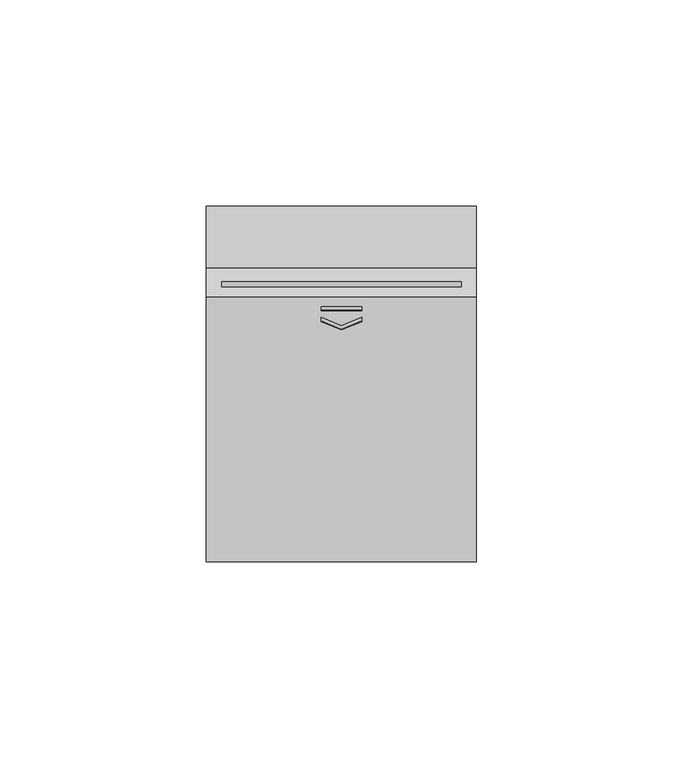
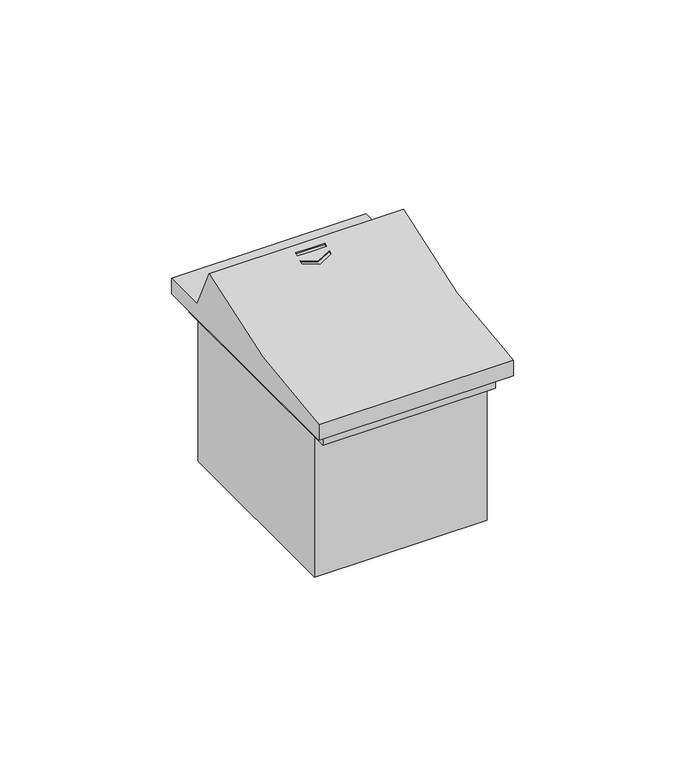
"""IFC4 building model written with IfcOpenShell, lengths in millimetres: proxy geometry, BT_LN-TascaPortabadge : Tasca portabadge - Art. K4549 - 3M - Cover Bianco."""

from ifc_helpers import new_model, si_unit, frame, origin, origin_with_axes, place, context, project, spatial, polyline, circle_curve, ellipse_curve, outline, extrude, source, transform, mapped, element, save
from ifc_brep_helpers import plane_surface, revolved_surface, advanced_brep


def electrical_fixtures_bfd4cbcf(model_context):
    return source(origin(), model_context, "Body", "SolidModel", [
        advanced_brep(
        [(32.7, 43.0, 61.0), (32.7, 28.0, 61.0), (32.7, 21.0, 76.0), (32.7, -43.0, 61.0), (32.7, -43.0, 55.5), (32.7, 43.0, 55.5), (-32.7, 43.0, 61.0), (-32.7, 43.0, 55.5), (-32.7, -43.0, 55.5), (-32.7, -43.0, 61.0), (-32.7, 21.0, 76.0), (-32.7, 28.0, 61.0), (0.0, 18.7566508, 74.9835492), (4.9284943, 18.7566508, 74.9835492), (4.9284943, 17.7407475, 74.5365839), (0.0, 17.7407475, 74.5365839), (-4.9284943, 17.7407475, 74.5365839), (-4.9284943, 18.7566508, 74.9835492), (-4.9284943, 16.10636, 73.8347002), (0.0, 14.153344, 73.0234329), (4.9284943, 16.10636, 73.8347002), (4.9284943, 15.0834157, 73.4060773), (0.0, 13.1252496, 72.6082264), (-4.9284943, 15.0834157, 73.4060773), (29.0, 24.7409841, 67.9836055), (29.0, 23.5401451, 70.556832), (-29.0, 23.5401451, 70.556832), (-29.0, 24.7409841, 67.9836055), (29.0, 3.5694673, 58.1035643), (29.0, 2.3686282, 60.6767908), (-29.0, 2.3686282, 60.6767908), (-29.0, 3.5694673, 58.1035643), (0.0, 19.0114424, 74.3197945), (-4.9284943, 19.0114424, 74.3197945), (-4.9284943, 17.97647, 73.9225058), (0.0, 17.97647, 73.9225058), (4.9284943, 17.97647, 73.9225058), (4.9284943, 19.0114424, 74.3197945), (-4.9284943, 16.317157, 73.2855552), (-4.9284943, 15.2821846, 72.8882666), (0.0, 13.3085679, 72.1306661), (4.9284943, 15.2821846, 72.8882666), (4.9284943, 16.317157, 73.2855552), (0.0, 14.3435402, 72.5279548)],
        [
            (0, 1),
            (1, 2),
            (2, 3, circle_curve(frame((32.7, -47.4831113, 224.1612751), z_axis=(-1.0, 0.0, 0.0), x_axis=(0.0, -1.0, 0.0)), 163.2228537)),
            (3, 4),
            (4, 5),
            (5, 0),
            (6, 7),
            (7, 8),
            (8, 9),
            (9, 10, circle_curve(frame((-32.7, -47.4831113, 224.1612751), z_axis=(1.0, 0.0, 0.0), x_axis=(0.0, -1.0, 0.0)), 163.2228537)),
            (10, 11),
            (11, 6),
            (5, 7),
            (6, 0),
            (4, 8),
            (3, 9),
            (2, 10),
            (12, 13),
            (13, 14, circle_curve(frame((4.9284943, -47.4831113, 224.1612751), z_axis=(-1.0, 0.0, 0.0), x_axis=(0.0, -1.0, 0.0)), 163.2228537)),
            (14, 15),
            (15, 16),
            (16, 17, circle_curve(frame((-4.9284943, -47.4831113, 224.1612751), z_axis=(1.0, 0.0, 0.0), x_axis=(0.0, -1.0, 0.0)), 163.2228537)),
            (17, 12),
            (18, 19, ellipse_curve(frame((7.8790215, -47.4831113, 224.1612751), z_axis=(-0.3942056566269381, -0.8579811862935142, -0.3293481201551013), x_axis=(-0.9190222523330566, 0.3680226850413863, 0.14127067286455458)), 414.0550775, 163.2228537)),
            (19, 20, ellipse_curve(frame((-7.8790215, -47.4831113, 224.1612751), z_axis=(0.3942056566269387, -0.8579811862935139, -0.32934812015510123), x_axis=(-0.9190222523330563, -0.36802268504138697, -0.14127067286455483)), 414.0550775, 163.2228537)),
            (20, 21, circle_curve(frame((4.9284943, -47.4831113, 224.1612751), z_axis=(-1.0, 0.0, 0.0), x_axis=(0.0, -1.0, 0.0)), 163.2228537)),
            (21, 22, ellipse_curve(frame((-5.2944998, -47.4831113, 224.1612751), z_axis=(-0.3942056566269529, 0.8579811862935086, 0.32934812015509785), x_axis=(-0.9190222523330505, -0.36802268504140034, -0.14127067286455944)), 414.0550775, 163.2228537)),
            (22, 23, ellipse_curve(frame((5.2944998, -47.4831113, 224.1612751), z_axis=(0.39420565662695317, 0.8579811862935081, 0.329348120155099), x_axis=(-0.9190222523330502, 0.3680226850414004, 0.14127067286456)), 414.0550775, 163.2228537)),
            (23, 18, circle_curve(frame((-4.9284943, -47.4831113, 224.1612751), z_axis=(1.0, 0.0, 0.0), x_axis=(0.0, -1.0, 0.0)), 163.2228537)),
            (1, 11),
            (24, 25),
            (25, 26),
            (26, 27),
            (27, 24),
            (24, 28),
            (28, 29),
            (29, 25),
            (26, 30),
            (30, 31),
            (31, 27),
            (29, 30),
            (28, 31),
            (32, 33),
            (33, 34),
            (34, 35),
            (35, 36),
            (36, 37),
            (37, 32),
            (38, 39),
            (39, 40),
            (40, 41),
            (41, 42),
            (42, 43),
            (43, 38),
            (37, 13),
            (12, 32),
            (36, 14),
            (35, 15),
            (34, 16),
            (33, 17),
            (43, 19),
            (18, 38),
            (42, 20),
            (41, 21),
            (40, 22),
            (39, 23),
        ],
        [
            plane_surface(frame((32.7, -1442.4208958, 61.0), z_axis=(1.0, 0.0, 0.0), x_axis=(0.0, -1.0, 0.0))),
            plane_surface(frame((-32.7, -1442.4208958, 61.0), z_axis=(-1.0, 0.0, 0.0), x_axis=(0.0, 1.0, 0.0))),
            plane_surface(frame((32.7, 43.0, 55.5), z_axis=(0.0, 1.0, 0.0), x_axis=(-1.0, 0.0, 0.0))),
            plane_surface(frame((32.7, -43.0, 55.5), z_axis=(0.0, 0.0, -1.0), x_axis=(-1.0, 0.0, 0.0))),
            plane_surface(frame((32.7, -43.0, 61.0), z_axis=(0.0, -1.0, 0.0), x_axis=(-1.0, 0.0, 0.0))),
            revolved_surface(polyline([(-388.4048514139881, -210.705965, 224.1612751), (388.4048514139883, -210.705965, 224.1612751)]), (-32.7, -47.4831113, 224.1612751), (-1.0, 0.0, 0.0)),
            plane_surface(frame((32.7, 28.0, 61.0), z_axis=(0.0, 0.9061831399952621, 0.4228854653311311), x_axis=(-1.0, 0.0, 0.0))),
            plane_surface(frame((32.7, 43.0, 61.0), z_axis=(0.0, 0.0, 1.0), x_axis=(-1.0, 0.0, 0.0))),
            plane_surface(frame((29.0, 23.5401451, 70.556832), z_axis=(-1.0, 0.0, 0.0), x_axis=(0.0, -0.9061831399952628, -0.42288546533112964))),
            plane_surface(frame((-29.0, 23.5401451, 70.556832), z_axis=(1.0, 0.0, 0.0), x_axis=(0.0, 0.9061831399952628, 0.42288546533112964))),
            plane_surface(frame((29.0, 23.5401451, 70.556832), z_axis=(0.0, 0.42288546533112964, -0.9061831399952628), x_axis=(-1.0, 0.0, 0.0))),
            plane_surface(frame((29.0, 2.3686282, 60.6767908), z_axis=(0.0, 0.9061831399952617, 0.422885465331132), x_axis=(-1.0, 0.0, 0.0))),
            plane_surface(frame((29.0, 3.5694673, 58.1035643), z_axis=(0.0, -0.42288546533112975, 0.9061831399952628), x_axis=(-1.0, 0.0, 0.0))),
            plane_surface(frame((3.9909943, 19.0114424, 74.3197945), z_axis=(0.0, -0.35836794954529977, 0.933580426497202), x_axis=(1.0, 0.0, 0.0))),
            plane_surface(frame((0.0, 19.0114424, 74.3197945), z_axis=(0.0, -0.9335804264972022, -0.35836794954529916), x_axis=(0.0, -0.35836794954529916, 0.9335804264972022))),
            plane_surface(frame((4.9284943, 19.0114424, 74.3197945), z_axis=(-1.0, 0.0, 0.0), x_axis=(0.0, -0.35836794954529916, 0.9335804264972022))),
            plane_surface(frame((4.9284943, 17.97647, 73.9225058), z_axis=(0.0, 0.9335804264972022, 0.35836794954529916), x_axis=(0.0, -0.35836794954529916, 0.9335804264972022))),
            plane_surface(frame((0.0, 17.97647, 73.9225058), z_axis=(0.0, 0.9335804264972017, 0.3583679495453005), x_axis=(0.0, -0.3583679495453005, 0.9335804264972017))),
            plane_surface(frame((-4.9284943, 17.97647, 73.9225058), z_axis=(1.0, 0.0, 0.0), x_axis=(0.0, -0.35836794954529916, 0.9335804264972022))),
            plane_surface(frame((-4.9284943, 19.0114424, 74.3197945), z_axis=(0.0, -0.9335804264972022, -0.35836794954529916), x_axis=(0.0, -0.35836794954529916, 0.9335804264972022))),
            plane_surface(frame((-4.9284943, 16.317157, 73.2855552), z_axis=(-0.3942056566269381, -0.8579811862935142, -0.3293481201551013), x_axis=(0.0, -0.3583679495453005, 0.9335804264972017))),
            plane_surface(frame((0.0, 14.3435402, 72.5279548), z_axis=(0.3942056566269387, -0.8579811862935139, -0.32934812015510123), x_axis=(0.0, -0.3583679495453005, 0.9335804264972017))),
            plane_surface(frame((4.9284943, 16.317157, 73.2855552), z_axis=(-1.0, 0.0, 0.0), x_axis=(0.0, -0.35836794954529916, 0.9335804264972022))),
            plane_surface(frame((4.9284943, 15.2821846, 72.8882666), z_axis=(-0.3942056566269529, 0.8579811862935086, 0.32934812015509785), x_axis=(0.0, -0.35836794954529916, 0.9335804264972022))),
            plane_surface(frame((0.0, 13.3085679, 72.1306661), z_axis=(0.39420565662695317, 0.8579811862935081, 0.329348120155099), x_axis=(0.0, -0.3583679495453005, 0.9335804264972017))),
            plane_surface(frame((-4.9284943, 15.2821846, 72.8882666), z_axis=(1.0, 0.0, 0.0), x_axis=(0.0, -0.35836794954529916, 0.9335804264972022))),
        ],
        [
            (0, [[1, 2, 3, 4, 5, 6]]),
            (1, [[7, 8, 9, 10, 11, 12]]),
            (2, [[-6, 13, -7, 14]]),
            (3, [[-5, 15, -8, -13]]),
            (4, [[-4, 16, -9, -15]]),
            (5, [[-3, 17, -10, -16], [18, 19, 20, 21, 22, 23], [24, 25, 26, 27, 28, 29]]),
            (6, [[-2, 30, -11, -17], [31, 32, 33, 34]]),
            (7, [[-1, -14, -12, -30]]),
            (8, [[35, 36, 37, -31]]),
            (9, [[38, 39, 40, -33]]),
            (10, [[-37, 41, -38, -32]]),
            (11, [[-36, 42, -39, -41]]),
            (12, [[-35, -34, -40, -42]]),
            (13, [[43, 44, 45, 46, 47, 48]]),
            (13, [[49, 50, 51, 52, 53, 54]]),
            (14, [[-48, 55, -18, 56]]),
            (15, [[-47, 57, -19, -55]]),
            (16, [[-46, 58, -20, -57]]),
            (17, [[-45, 59, -21, -58]]),
            (18, [[-44, 60, -22, -59]]),
            (19, [[-43, -56, -23, -60]]),
            (20, [[-54, 61, -24, 62]]),
            (21, [[-53, 63, -25, -61]]),
            (22, [[-52, 64, -26, -63]]),
            (23, [[-51, 65, -27, -64]]),
            (24, [[-50, 66, -28, -65]]),
            (25, [[-49, -62, -29, -66]]),
        ],
    ),
        extrude(outline(polyline([(-29.0, 39.0), (29.0, 39.0), (29.0, -39.0), (-29.0, -39.0), (-29.0, 39.0)])), frame((0.0, 0.0, 50.0), z_axis=(0.0, 0.0, 1.0), x_axis=(1.0, 0.0, 0.0)), (0.0, 0.0, 1.0), 5.5),
        extrude(outline(polyline([(-29.0, 34.0), (29.0, 34.0), (29.0, -34.0), (-29.0, -34.0), (-29.0, 34.0)])), origin_with_axes(), (0.0, 0.0, 1.0), 50.0),
    ])


if __name__ == "__main__":
    model = new_model("IFC4")
    model_context = context("Model", 3, world=origin())
    ifc_project = project(units=[si_unit("LENGTHUNIT", "METRE", prefix="MILLI")], contexts=[model_context])
    site = spatial("IfcSite", under=ifc_project)
    building = spatial("IfcBuilding", under=site)
    placement = place(None, origin())
    electrical_fixtures_shape = electrical_fixtures_bfd4cbcf(model_context)
    element("IfcBuildingElementProxy", 1, Name="BT_LN-TascaPortabadge : Tasca portabadge - Art. K4549 - 3M - Cover Bianco", ObjectType="BT_LN-TascaPortabadge : Tasca portabadge - Art. K4549 - 3M - Cover Bianco", at=placement, inside=building, context=model_context, shape_type="MappedRepresentation", body=[
        mapped(electrical_fixtures_shape, transform((0.0, 0.0, 0.0), x_axis=(1.0, 0.0, 0.0), y_axis=(0.0, 1.0, 0.0), z_axis=(0.0, 0.0, 1.0))),
    ])
    save(model, "model.ifc")
